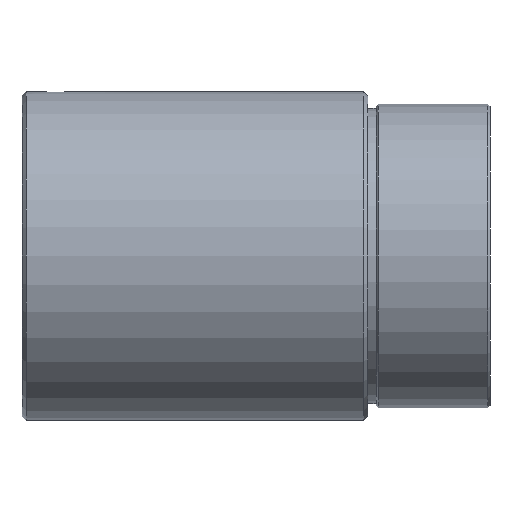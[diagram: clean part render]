
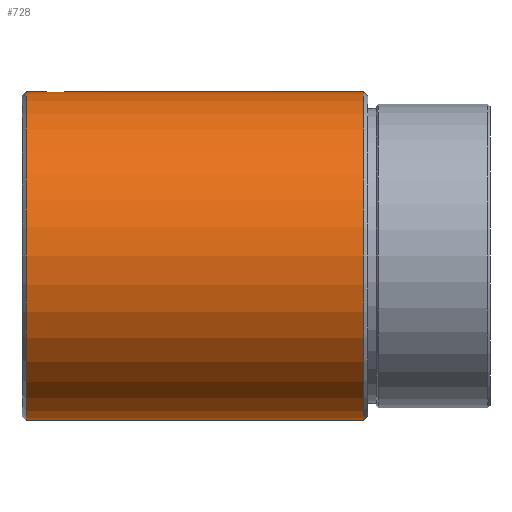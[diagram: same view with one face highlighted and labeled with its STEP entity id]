
A CAD part, front view. The second image highlights one B-rep face of the part: STEP entity #728.
In plain terms, the highlighted cylindrical face has radius 39 mm (diameter 78 mm), a partial arc.
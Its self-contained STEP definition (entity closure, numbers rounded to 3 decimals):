
#3 = EDGE_LOOP ( 'NONE', ( #743, #704, #552, #106, #563, #858 ) ) ;
#20 = CARTESIAN_POINT ( 'NONE',  ( 7.091, -3.388, 38.853 ) ) ;
#22 = CARTESIAN_POINT ( 'NONE',  ( 11.036, -1.757, 38.961 ) ) ;
#42 = CARTESIAN_POINT ( 'NONE',  ( 1., 0., 0. ) ) ;
#45 = CARTESIAN_POINT ( 'NONE',  ( 4.5, 0., 39. ) ) ;
#55 = CARTESIAN_POINT ( 'NONE',  ( 81., 0., -39. ) ) ;
#66 = VERTEX_POINT ( 'NONE', #433 ) ;
#84 = CARTESIAN_POINT ( 'NONE',  ( 6.446, -3.144, 38.873 ) ) ;
#85 = CARTESIAN_POINT ( 'NONE',  ( 7.766, -3.5, 38.843 ) ) ;
#87 = CARTESIAN_POINT ( 'NONE',  ( 11.319, -1.133, 38.984 ) ) ;
#97 = LINE ( 'NONE', #511, #805 ) ;
#100 = EDGE_CURVE ( 'NONE', #549, #110, #826, .T. ) ;
#105 = CARTESIAN_POINT ( 'NONE',  ( 4.612, -0.907, 38.99 ) ) ;
#106 = ORIENTED_EDGE ( 'NONE', *, *, #121, .F. ) ;
#110 = VERTEX_POINT ( 'NONE', #578 ) ;
#112 = VERTEX_POINT ( 'NONE', #436 ) ;
#113 = EDGE_CURVE ( 'NONE', #325, #112, #97, .T. ) ;
#121 = EDGE_CURVE ( 'NONE', #325, #722, #495, .T. ) ;
#153 = EDGE_CURVE ( 'NONE', #66, #722, #233, .T. ) ;
#154 = CARTESIAN_POINT ( 'NONE',  ( 8.456, -3.478, 38.845 ) ) ;
#156 = CARTESIAN_POINT ( 'NONE',  ( 11.477, -0.46, 38.998 ) ) ;
#170 = DIRECTION ( 'NONE',  ( -1., 0., 0. ) ) ;
#175 = CARTESIAN_POINT ( 'NONE',  ( 4.853, -1.549, 38.97 ) ) ;
#221 = CARTESIAN_POINT ( 'NONE',  ( 9.126, -3.322, 38.858 ) ) ;
#223 = CARTESIAN_POINT ( 'NONE',  ( 11.5, 0., 39. ) ) ;
#233 = LINE ( 'NONE', #258, #424 ) ;
#239 = CARTESIAN_POINT ( 'NONE',  ( 5.217, -2.136, 38.942 ) ) ;
#258 = CARTESIAN_POINT ( 'NONE',  ( -28.983, 0., 39. ) ) ;
#277 = CARTESIAN_POINT ( 'NONE',  ( 81., 0., 0. ) ) ;
#280 = AXIS2_PLACEMENT_3D ( 'NONE', #303, #460, #533 ) ;
#285 = DIRECTION ( 'NONE',  ( -1., 0., 0. ) ) ;
#288 = CARTESIAN_POINT ( 'NONE',  ( 9.751, -3.039, 38.882 ) ) ;
#303 = CARTESIAN_POINT ( 'NONE',  ( -28.983, 0., 0. ) ) ;
#308 = CARTESIAN_POINT ( 'NONE',  ( 5.685, -2.635, 38.911 ) ) ;
#325 = VERTEX_POINT ( 'NONE', #412 ) ;
#348 = CYLINDRICAL_SURFACE ( 'NONE', #280, 39. ) ;
#357 = DIRECTION ( 'NONE',  ( 0., 0., 1. ) ) ;
#364 = CARTESIAN_POINT ( 'NONE',  ( 10.312, -2.638, 38.911 ) ) ;
#386 = CARTESIAN_POINT ( 'NONE',  ( 6.245, -3.037, 38.882 ) ) ;
#412 = CARTESIAN_POINT ( 'NONE',  ( 4.5, 0., 39. ) ) ;
#424 = VECTOR ( 'NONE', #836, 1000. ) ;
#433 = CARTESIAN_POINT ( 'NONE',  ( 81., 0., 39. ) ) ;
#436 = CARTESIAN_POINT ( 'NONE',  ( 1., 0., 39. ) ) ;
#438 = CARTESIAN_POINT ( 'NONE',  ( 6.869, -3.32, 38.859 ) ) ;
#442 = EDGE_CURVE ( 'NONE', #110, #112, #707, .T. ) ;
#443 = CARTESIAN_POINT ( 'NONE',  ( 10.78, -2.139, 38.942 ) ) ;
#460 = DIRECTION ( 'NONE',  ( -1., 0., 0. ) ) ;
#461 = CARTESIAN_POINT ( 'NONE',  ( 4.5, -0.228, 39. ) ) ;
#481 = CIRCLE ( 'NONE', #719, 39. ) ;
#495 = B_SPLINE_CURVE_WITH_KNOTS ( 'NONE', 3,
 ( #45, #461, #534, #105, #600, #175, #667, #239, #747, #308, #814, #386, #84, #438, #20, #512, #85, #579, #154, #645, #221, #721, #288, #794, #364, #869, #443, #22, #513, #87, #580, #156, #647, #223 ),
 .UNSPECIFIED., .F., .F.,
 ( 4, 2, 2, 2, 2, 2, 2, 2, 2, 2, 2, 2, 2, 2, 2, 2, 4 ),
 ( 0.011, 0.012, 0.012, 0.013, 0.014, 0.014, 0.015, 0.016, 0.016, 0.017, 0.018, 0.018, 0.019, 0.02, 0.021, 0.021, 0.022 ),
 .UNSPECIFIED. ) ;
#511 = CARTESIAN_POINT ( 'NONE',  ( -28.983, 0., 39. ) ) ;
#512 = CARTESIAN_POINT ( 'NONE',  ( 7.539, -3.477, 38.845 ) ) ;
#513 = CARTESIAN_POINT ( 'NONE',  ( 11.145, -1.554, 38.97 ) ) ;
#531 = DIRECTION ( 'NONE',  ( -1., 0., 0. ) ) ;
#533 = DIRECTION ( 'NONE',  ( 0., 0., 1. ) ) ;
#534 = CARTESIAN_POINT ( 'NONE',  ( 4.522, -0.456, 38.998 ) ) ;
#548 = FACE_OUTER_BOUND ( 'NONE', #3, .T. ) ;
#549 = VERTEX_POINT ( 'NONE', #55 ) ;
#552 = ORIENTED_EDGE ( 'NONE', *, *, #153, .T. ) ;
#563 = ORIENTED_EDGE ( 'NONE', *, *, #113, .T. ) ;
#578 = CARTESIAN_POINT ( 'NONE',  ( 1., 0., -39. ) ) ;
#579 = CARTESIAN_POINT ( 'NONE',  ( 8.228, -3.5, 38.843 ) ) ;
#580 = CARTESIAN_POINT ( 'NONE',  ( 11.387, -0.913, 38.99 ) ) ;
#600 = CARTESIAN_POINT ( 'NONE',  ( 4.679, -1.128, 38.984 ) ) ;
#632 = VECTOR ( 'NONE', #285, 1000. ) ;
#645 = CARTESIAN_POINT ( 'NONE',  ( 8.904, -3.389, 38.852 ) ) ;
#647 = CARTESIAN_POINT ( 'NONE',  ( 11.5, -0.231, 39. ) ) ;
#667 = CARTESIAN_POINT ( 'NONE',  ( 4.962, -1.753, 38.961 ) ) ;
#680 = DIRECTION ( 'NONE',  ( 0., 0., 1. ) ) ;
#704 = ORIENTED_EDGE ( 'NONE', *, *, #882, .T. ) ;
#707 = CIRCLE ( 'NONE', #904, 39. ) ;
#719 = AXIS2_PLACEMENT_3D ( 'NONE', #277, #786, #357 ) ;
#721 = CARTESIAN_POINT ( 'NONE',  ( 9.55, -3.146, 38.873 ) ) ;
#722 = VERTEX_POINT ( 'NONE', #808 ) ;
#728 = ADVANCED_FACE ( 'NONE', ( #548 ), #348, .T. ) ;
#743 = ORIENTED_EDGE ( 'NONE', *, *, #100, .F. ) ;
#747 = CARTESIAN_POINT ( 'NONE',  ( 5.362, -2.312, 38.932 ) ) ;
#786 = DIRECTION ( 'NONE',  ( -1., 0., 0. ) ) ;
#794 = CARTESIAN_POINT ( 'NONE',  ( 10.132, -2.785, 38.901 ) ) ;
#805 = VECTOR ( 'NONE', #170, 1000. ) ;
#808 = CARTESIAN_POINT ( 'NONE',  ( 11.5, 0., 39. ) ) ;
#814 = CARTESIAN_POINT ( 'NONE',  ( 5.864, -2.782, 38.901 ) ) ;
#826 = LINE ( 'NONE', #865, #632 ) ;
#836 = DIRECTION ( 'NONE',  ( -1., 0., 0. ) ) ;
#858 = ORIENTED_EDGE ( 'NONE', *, *, #442, .F. ) ;
#865 = CARTESIAN_POINT ( 'NONE',  ( -28.983, 0., -39. ) ) ;
#869 = CARTESIAN_POINT ( 'NONE',  ( 10.635, -2.315, 38.932 ) ) ;
#882 = EDGE_CURVE ( 'NONE', #549, #66, #481, .T. ) ;
#904 = AXIS2_PLACEMENT_3D ( 'NONE', #42, #531, #680 ) ;
